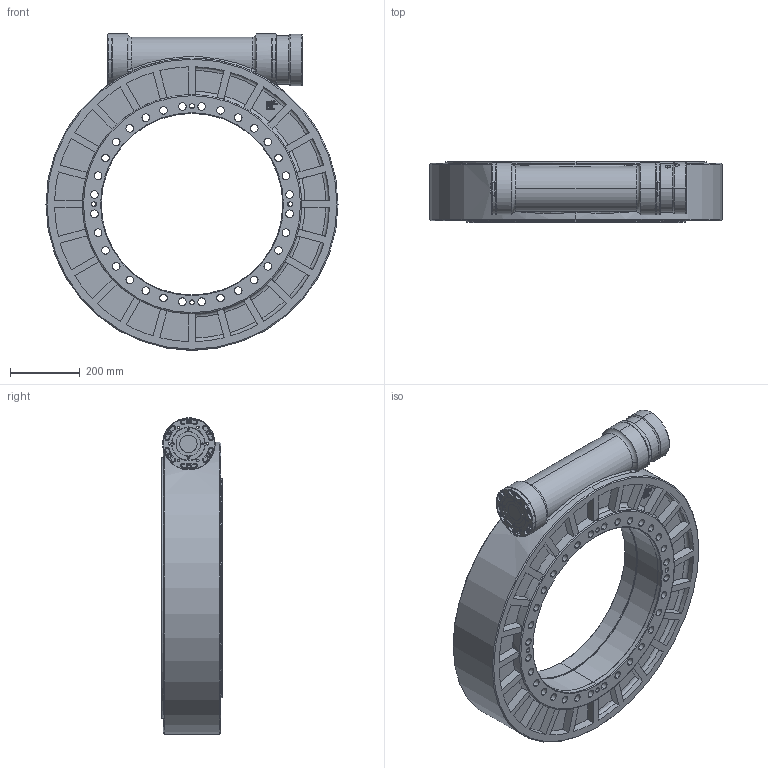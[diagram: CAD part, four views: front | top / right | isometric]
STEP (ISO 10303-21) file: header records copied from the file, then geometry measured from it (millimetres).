
FILE_DESCRIPTION (( 'STEP AP203' ), '1' );
FILE_NAME ('HTN415-60-32-110-130-M8.STEP', '2024-08-05T08:51:15', ( 'Windows User' ), ( 'P R C' ), 'SwSTEP 2.0', 'SolidWorks 2016', '' );
FILE_SCHEMA (( 'CONFIG_CONTROL_DESIGN' ));
Length unit declared in the file: millimetre
Products named in the file (1): HTN415-60-32-110-130-M8
Bounding box: 840 x 175 x 910 mm (x, y, z)
Surface area: 3087192.9 mm2 (no closed solid volume)
Topology: 0 solids, 78 shells, 1399 faces, 4074 edges, 2791 vertices
Faces by surface type: plane 642, cylinder 473, bspline 200, cone 50, torus 34
Entity records: 67298 total; most frequent: CARTESIAN_POINT 31062, ORIENTED_EDGE 7435, DIRECTION 7004, EDGE_CURVE 4074, VERTEX_POINT 2791, AXIS2_PLACEMENT_3D 2372, LINE 2260, VECTOR 2260
